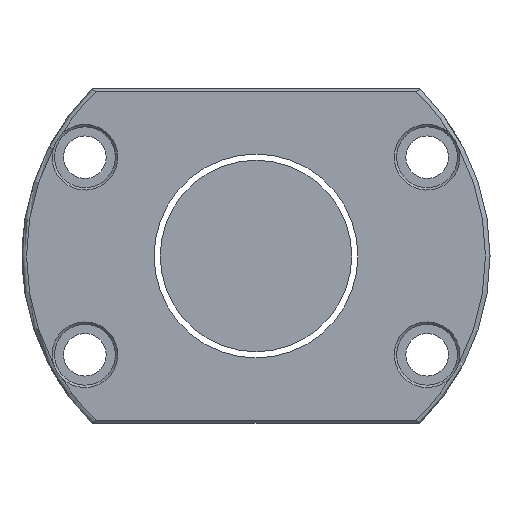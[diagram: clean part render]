
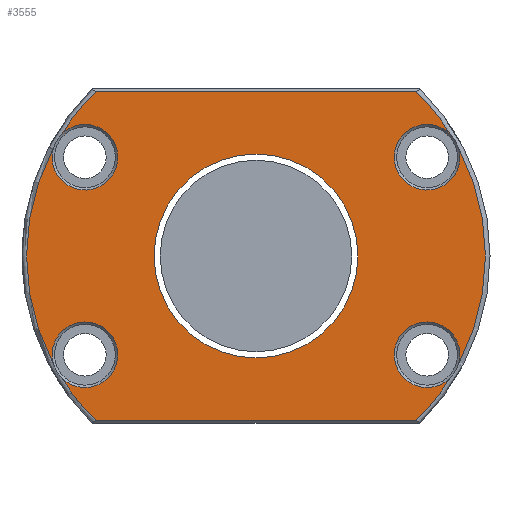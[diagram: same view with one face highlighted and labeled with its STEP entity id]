
A CAD part, left-side view. The second image highlights one B-rep face of the part: STEP entity #3555.
In plain terms, the highlighted planar face has unit normal (-1, 0, 0).
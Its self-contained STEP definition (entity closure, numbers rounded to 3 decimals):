
#4 = EDGE_CURVE ( 'NONE', #478, #351, #2730, .T. ) ;
#18 = VERTEX_POINT ( 'NONE', #1064 ) ;
#40 = ORIENTED_EDGE ( 'NONE', *, *, #2029, .T. ) ;
#57 = CARTESIAN_POINT ( 'NONE',  ( -105., 0., 0. ) ) ;
#75 = CARTESIAN_POINT ( 'NONE',  ( -105., -56.292, 32.5 ) ) ;
#96 = DIRECTION ( 'NONE',  ( 1., 0., 0. ) ) ;
#174 = EDGE_LOOP ( 'NONE', ( #1248, #1768, #3034, #2360, #3088, #2796, #2707, #40, #1026, #3256, #3237, #2105 ) ) ;
#243 = FACE_OUTER_BOUND ( 'NONE', #174, .T. ) ;
#288 = DIRECTION ( 'NONE',  ( 0., 0., 1. ) ) ;
#311 = CIRCLE ( 'NONE', #2821, 10.8 ) ;
#351 = VERTEX_POINT ( 'NONE', #2435 ) ;
#374 = DIRECTION ( 'NONE',  ( -1., 0., 0. ) ) ;
#399 = DIRECTION ( 'NONE',  ( 0., 0., 1. ) ) ;
#407 = EDGE_CURVE ( 'NONE', #1358, #1358, #837, .T. ) ;
#435 = EDGE_CURVE ( 'NONE', #1810, #18, #2015, .T. ) ;
#448 = CARTESIAN_POINT ( 'NONE',  ( -105., 52.561, -54.2 ) ) ;
#460 = CARTESIAN_POINT ( 'NONE',  ( -105., -52.561, 54.2 ) ) ;
#478 = VERTEX_POINT ( 'NONE', #460 ) ;
#499 = CARTESIAN_POINT ( 'NONE',  ( -105., -52.561, -54.2 ) ) ;
#650 = AXIS2_PLACEMENT_3D ( 'NONE', #799, #2731, #3563 ) ;
#657 = DIRECTION ( 'NONE',  ( 0., 0., 1. ) ) ;
#665 = VERTEX_POINT ( 'NONE', #1618 ) ;
#670 = DIRECTION ( 'NONE',  ( 0., 0., 1. ) ) ;
#726 = CIRCLE ( 'NONE', #1787, 75.5 ) ;
#799 = CARTESIAN_POINT ( 'NONE',  ( -105., 77., 0. ) ) ;
#819 = DIRECTION ( 'NONE',  ( 0., 0., 1. ) ) ;
#837 = CIRCLE ( 'NONE', #954, 33.55 ) ;
#900 = VECTOR ( 'NONE', #2608, 1000. ) ;
#930 = CARTESIAN_POINT ( 'NONE',  ( -105., 0., 0. ) ) ;
#954 = AXIS2_PLACEMENT_3D ( 'NONE', #2074, #3441, #2874 ) ;
#964 = DIRECTION ( 'NONE',  ( -1., 0., 0. ) ) ;
#1000 = DIRECTION ( 'NONE',  ( 0., 0., 1. ) ) ;
#1007 = EDGE_CURVE ( 'NONE', #1466, #1844, #311, .T. ) ;
#1026 = ORIENTED_EDGE ( 'NONE', *, *, #3303, .T. ) ;
#1055 = AXIS2_PLACEMENT_3D ( 'NONE', #57, #1160, #2294 ) ;
#1064 = CARTESIAN_POINT ( 'NONE',  ( -105., 66.704, -35.366 ) ) ;
#1108 = AXIS2_PLACEMENT_3D ( 'NONE', #1751, #1468, #2121 ) ;
#1120 = CARTESIAN_POINT ( 'NONE',  ( -105., 0., 0. ) ) ;
#1144 = VERTEX_POINT ( 'NONE', #1628 ) ;
#1160 = DIRECTION ( 'NONE',  ( -1., 0., 0. ) ) ;
#1199 = CARTESIAN_POINT ( 'NONE',  ( -105., -66.704, -35.366 ) ) ;
#1208 = EDGE_CURVE ( 'NONE', #2688, #1466, #1602, .T. ) ;
#1248 = ORIENTED_EDGE ( 'NONE', *, *, #1548, .T. ) ;
#1254 = CIRCLE ( 'NONE', #1426, 75.5 ) ;
#1300 = VERTEX_POINT ( 'NONE', #3066 ) ;
#1311 = AXIS2_PLACEMENT_3D ( 'NONE', #930, #2062, #657 ) ;
#1339 = CARTESIAN_POINT ( 'NONE',  ( -105., 0., -33.55 ) ) ;
#1358 = VERTEX_POINT ( 'NONE', #1339 ) ;
#1426 = AXIS2_PLACEMENT_3D ( 'NONE', #2154, #3501, #1000 ) ;
#1466 = VERTEX_POINT ( 'NONE', #1476 ) ;
#1468 = DIRECTION ( 'NONE',  ( 1., 0., 0. ) ) ;
#1476 = CARTESIAN_POINT ( 'NONE',  ( -105., -66.704, 35.366 ) ) ;
#1489 = CARTESIAN_POINT ( 'NONE',  ( -105., -63.98, 40.084 ) ) ;
#1496 = LINE ( 'NONE', #1779, #900 ) ;
#1531 = EDGE_CURVE ( 'NONE', #2852, #665, #726, .T. ) ;
#1545 = CARTESIAN_POINT ( 'NONE',  ( -105., 0., 0. ) ) ;
#1548 = EDGE_CURVE ( 'NONE', #1731, #2852, #1496, .T. ) ;
#1576 = ORIENTED_EDGE ( 'NONE', *, *, #407, .T. ) ;
#1583 = CARTESIAN_POINT ( 'NONE',  ( -105., 53.889, 54.2 ) ) ;
#1584 = PLANE ( 'NONE',  #650 ) ;
#1602 = CIRCLE ( 'NONE', #2086, 75.5 ) ;
#1606 = CIRCLE ( 'NONE', #2182, 10.8 ) ;
#1618 = CARTESIAN_POINT ( 'NONE',  ( -105., -63.98, -40.084 ) ) ;
#1628 = CARTESIAN_POINT ( 'NONE',  ( -105., 63.98, 40.084 ) ) ;
#1635 = DIRECTION ( 'NONE',  ( 0., 1., 0. ) ) ;
#1731 = VERTEX_POINT ( 'NONE', #448 ) ;
#1751 = CARTESIAN_POINT ( 'NONE',  ( -105., 56.292, -32.5 ) ) ;
#1768 = ORIENTED_EDGE ( 'NONE', *, *, #1531, .T. ) ;
#1779 = CARTESIAN_POINT ( 'NONE',  ( -105., -53.889, -54.2 ) ) ;
#1787 = AXIS2_PLACEMENT_3D ( 'NONE', #3465, #964, #399 ) ;
#1810 = VERTEX_POINT ( 'NONE', #2011 ) ;
#1844 = VERTEX_POINT ( 'NONE', #1489 ) ;
#1890 = CIRCLE ( 'NONE', #1055, 75.5 ) ;
#1924 = FACE_BOUND ( 'NONE', #2395, .T. ) ;
#2011 = CARTESIAN_POINT ( 'NONE',  ( -105., 66.704, 35.366 ) ) ;
#2015 = CIRCLE ( 'NONE', #2374, 75.5 ) ;
#2029 = EDGE_CURVE ( 'NONE', #351, #1144, #2257, .T. ) ;
#2062 = DIRECTION ( 'NONE',  ( -1., 0., 0. ) ) ;
#2074 = CARTESIAN_POINT ( 'NONE',  ( -105., 0., 0. ) ) ;
#2086 = AXIS2_PLACEMENT_3D ( 'NONE', #1120, #3319, #819 ) ;
#2100 = EDGE_CURVE ( 'NONE', #1300, #1731, #1254, .T. ) ;
#2105 = ORIENTED_EDGE ( 'NONE', *, *, #2100, .T. ) ;
#2121 = DIRECTION ( 'NONE',  ( 0., 0., 1. ) ) ;
#2154 = CARTESIAN_POINT ( 'NONE',  ( -105., 0., 0. ) ) ;
#2182 = AXIS2_PLACEMENT_3D ( 'NONE', #3157, #2783, #3353 ) ;
#2257 = CIRCLE ( 'NONE', #1311, 75.5 ) ;
#2294 = DIRECTION ( 'NONE',  ( 0., 0., 1. ) ) ;
#2360 = ORIENTED_EDGE ( 'NONE', *, *, #1208, .T. ) ;
#2374 = AXIS2_PLACEMENT_3D ( 'NONE', #1545, #374, #670 ) ;
#2395 = EDGE_LOOP ( 'NONE', ( #1576 ) ) ;
#2435 = CARTESIAN_POINT ( 'NONE',  ( -105., 52.561, 54.2 ) ) ;
#2572 = AXIS2_PLACEMENT_3D ( 'NONE', #3161, #3105, #288 ) ;
#2601 = EDGE_CURVE ( 'NONE', #665, #2688, #1606, .T. ) ;
#2608 = DIRECTION ( 'NONE',  ( 0., -1., 0. ) ) ;
#2688 = VERTEX_POINT ( 'NONE', #1199 ) ;
#2707 = ORIENTED_EDGE ( 'NONE', *, *, #4, .T. ) ;
#2730 = LINE ( 'NONE', #1583, #3342 ) ;
#2731 = DIRECTION ( 'NONE',  ( -1., 0., 0. ) ) ;
#2783 = DIRECTION ( 'NONE',  ( 1., 0., 0. ) ) ;
#2796 = ORIENTED_EDGE ( 'NONE', *, *, #3401, .T. ) ;
#2821 = AXIS2_PLACEMENT_3D ( 'NONE', #75, #96, #2847 ) ;
#2847 = DIRECTION ( 'NONE',  ( 0., 0., 1. ) ) ;
#2852 = VERTEX_POINT ( 'NONE', #499 ) ;
#2874 = DIRECTION ( 'NONE',  ( 0., 0., -1. ) ) ;
#3034 = ORIENTED_EDGE ( 'NONE', *, *, #2601, .T. ) ;
#3065 = EDGE_CURVE ( 'NONE', #18, #1300, #3213, .T. ) ;
#3066 = CARTESIAN_POINT ( 'NONE',  ( -105., 63.98, -40.084 ) ) ;
#3088 = ORIENTED_EDGE ( 'NONE', *, *, #1007, .T. ) ;
#3105 = DIRECTION ( 'NONE',  ( 1., 0., 0. ) ) ;
#3157 = CARTESIAN_POINT ( 'NONE',  ( -105., -56.292, -32.5 ) ) ;
#3161 = CARTESIAN_POINT ( 'NONE',  ( -105., 56.292, 32.5 ) ) ;
#3213 = CIRCLE ( 'NONE', #1108, 10.8 ) ;
#3237 = ORIENTED_EDGE ( 'NONE', *, *, #3065, .T. ) ;
#3256 = ORIENTED_EDGE ( 'NONE', *, *, #435, .T. ) ;
#3303 = EDGE_CURVE ( 'NONE', #1144, #1810, #3558, .T. ) ;
#3319 = DIRECTION ( 'NONE',  ( -1., 0., 0. ) ) ;
#3342 = VECTOR ( 'NONE', #1635, 1000. ) ;
#3353 = DIRECTION ( 'NONE',  ( 0., 0., 1. ) ) ;
#3401 = EDGE_CURVE ( 'NONE', #1844, #478, #1890, .T. ) ;
#3441 = DIRECTION ( 'NONE',  ( 1., 0., 0. ) ) ;
#3465 = CARTESIAN_POINT ( 'NONE',  ( -105., 0., 0. ) ) ;
#3501 = DIRECTION ( 'NONE',  ( -1., 0., 0. ) ) ;
#3555 = ADVANCED_FACE ( 'NONE', ( #243, #1924 ), #1584, .T. ) ;
#3558 = CIRCLE ( 'NONE', #2572, 10.8 ) ;
#3563 = DIRECTION ( 'NONE',  ( 0., 0., 1. ) ) ;
